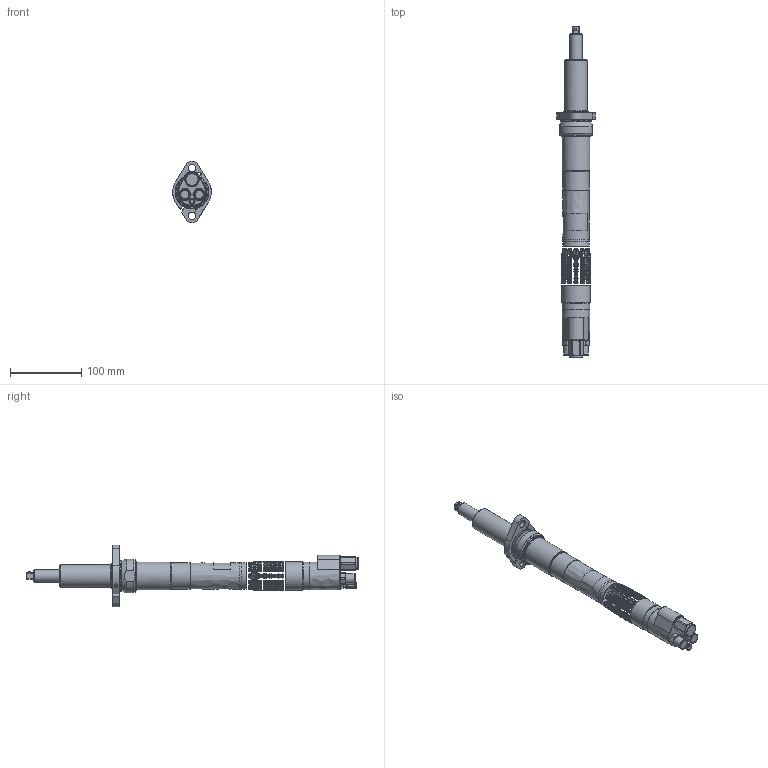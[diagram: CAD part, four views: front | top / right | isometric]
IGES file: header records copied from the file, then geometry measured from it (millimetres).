
Global section: file name: C:\Users\tbok\Documents\Drawings_temp\QA4ASRS046NF41S06.igs; native system: NX V4.0; preprocessor: UGS NX IGES V4.0; date: 20170302.092706; units: millimetre
Bounding box: 53.95 x 464.6 x 85.7 mm (x, y, z)
Surface area: 67632.6 mm2 (no closed solid volume)
Topology: 0 solids, 0 shells, 2642 faces, 15960 edges, 15888 vertices
Faces by surface type: bspline 2642
